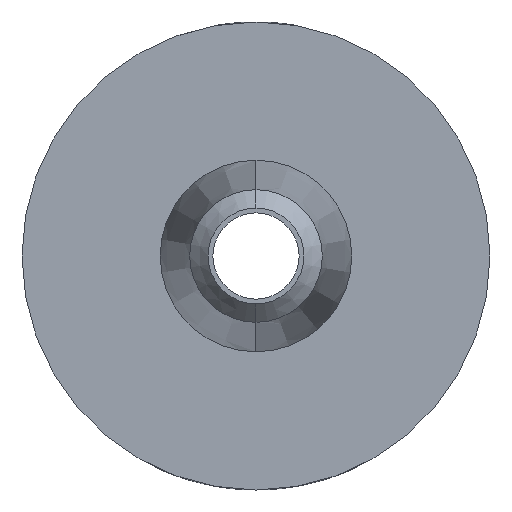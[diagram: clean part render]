
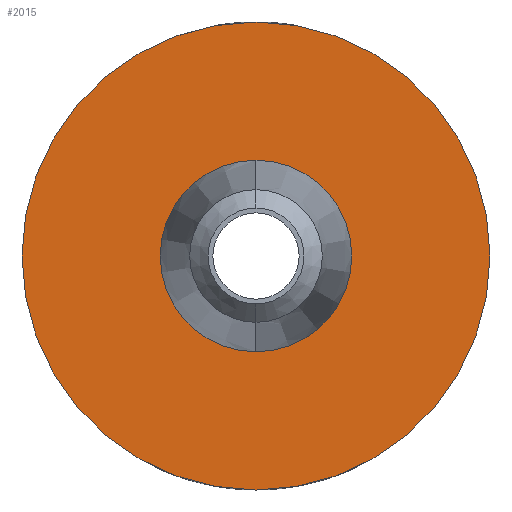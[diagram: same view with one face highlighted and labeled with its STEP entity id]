
A CAD part, left-side view. The second image highlights one B-rep face of the part: STEP entity #2015.
In plain terms, the highlighted planar face has unit normal (1, 0, 0).
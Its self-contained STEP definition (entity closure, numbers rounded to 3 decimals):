
#43=PLANE('',#2304);
#60=FACE_BOUND('',#265,.T.);
#116=CIRCLE('',#2305,3.175);
#117=CIRCLE('',#2306,1.3);
#183=FACE_OUTER_BOUND('',#264,.T.);
#264=EDGE_LOOP('',(#1711));
#265=EDGE_LOOP('',(#1712));
#941=VERTEX_POINT('',#3852);
#942=VERTEX_POINT('',#3854);
#1326=EDGE_CURVE('',#941,#941,#116,.T.);
#1327=EDGE_CURVE('',#942,#942,#117,.T.);
#1711=ORIENTED_EDGE('',*,*,#1326,.T.);
#1712=ORIENTED_EDGE('',*,*,#1327,.T.);
#2015=ADVANCED_FACE('',(#183,#60),#43,.T.);
#2304=AXIS2_PLACEMENT_3D('',#3851,#2542,#2543);
#2305=AXIS2_PLACEMENT_3D('',#3853,#2544,#2545);
#2306=AXIS2_PLACEMENT_3D('',#3855,#2546,#2547);
#2542=DIRECTION('center_axis',(1.,0.,0.));
#2543=DIRECTION('ref_axis',(0.,0.,-1.));
#2544=DIRECTION('center_axis',(1.,0.,0.));
#2545=DIRECTION('ref_axis',(0.,0.,-1.));
#2546=DIRECTION('center_axis',(-1.,0.,0.));
#2547=DIRECTION('ref_axis',(0.,0.,
-1.));
#3851=CARTESIAN_POINT('Origin',(-4.75,-3.213,0.));
#3852=CARTESIAN_POINT('',(-4.75,0.,3.175));
#3853=CARTESIAN_POINT('Origin',(-4.75,0.,0.));
#3854=CARTESIAN_POINT('',(-4.75,0.,1.3));
#3855=CARTESIAN_POINT('Origin',(-4.75,0.,0.));
